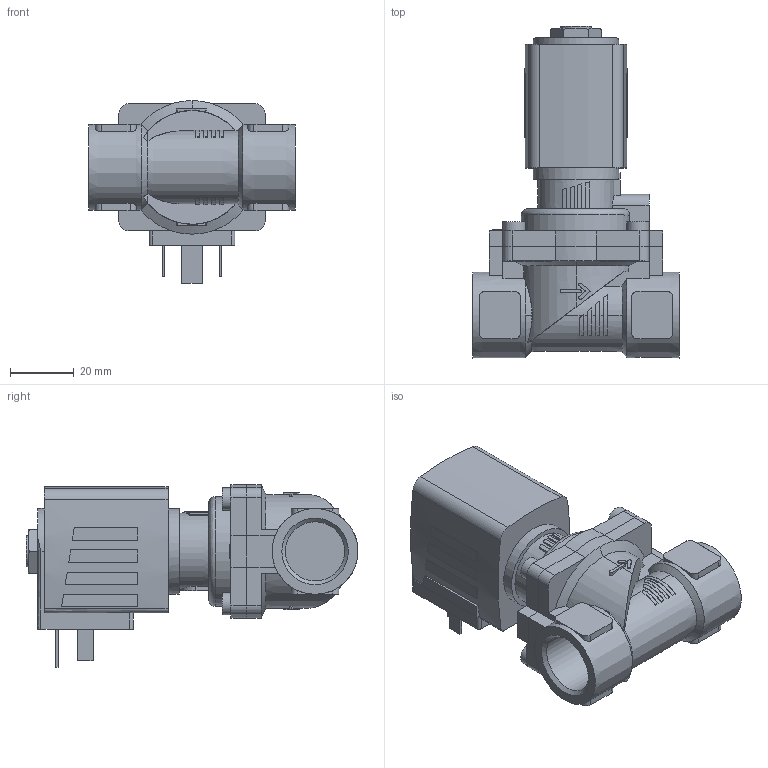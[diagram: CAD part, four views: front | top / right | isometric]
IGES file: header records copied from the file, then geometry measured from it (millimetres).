
Start section: Data from Parasolid IGES Translator 26.0.171, Copyright(c) 2006 Siemens PLM Software. All Rights Reserved.
Global section: file name: 6281-302179-2_2-Way_Solenoid_Valve__Servo-assisted__General_Purpose.igs; native system: By Siemens PLM Incorporated; preprocessor: XPlus GENERIC/IGES 26.0.171; author: Noname; organization: Noname; date: 20240520.115151; units: millimetre
Bounding box: 65 x 104.5 x 57.5 mm (x, y, z)
Surface area: 29225.8 mm2 (no closed solid volume)
Topology: 0 solids, 0 shells, 365 faces, 1914 edges, 1899 vertices
Faces by surface type: extrusion 236, revolution 129
